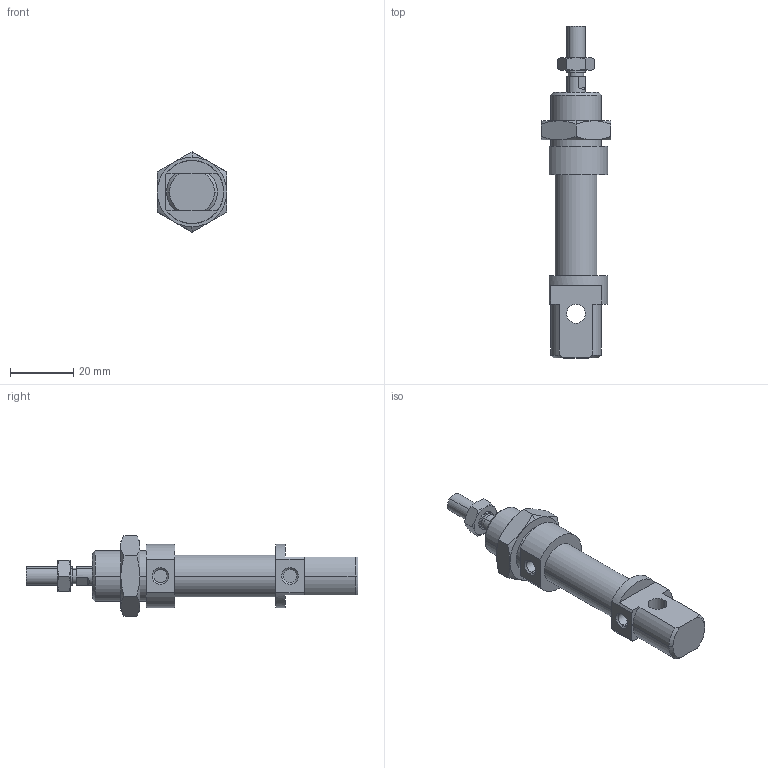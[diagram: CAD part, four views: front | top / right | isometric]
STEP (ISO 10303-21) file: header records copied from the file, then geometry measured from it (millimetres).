
FILE_DESCRIPTION((''),'2;1');
FILE_NAME('I:\DOC-EDP\Lib-3d\1200\CILINDRI\1280\1280_12_0000.stp','2003-04-07T14:47:38',('maffial1'),(''),'Autodesk Inventor (R) 6.0','Autodesk Inventor (R) 6.0','');
FILE_SCHEMA(('AUTOMOTIVE_DESIGN { 1 0 10303 214 1 1 1 1 }'));
Length unit declared in the file: millimetre
Products named in the file (5): 1280_12_0000; S1280_12_0; 1200_12_05; 1200_12_06; C1280_12_0
Assembly tree (4 placements, depth 2):
  1280_12_0000
    S1280_12_0
    1200_12_05
    1200_12_06
    C1280_12_0
Bounding box: 22 x 105 x 25.4 mm (x, y, z)
Volume: 17431.3 mm3; surface area: 8205.3 mm2
Topology: 4 solids, 4 shells, 121 faces, 268 edges, 162 vertices
Faces by surface type: cone 40, plane 39, cylinder 22, bspline 20
Entity records: 3653 total; most frequent: CARTESIAN_POINT 976, DIRECTION 556, ORIENTED_EDGE 536, EDGE_CURVE 268, AXIS2_PLACEMENT_3D 230, VERTEX_POINT 162, EDGE_LOOP 134, FACE_OUTER_BOUND 121
